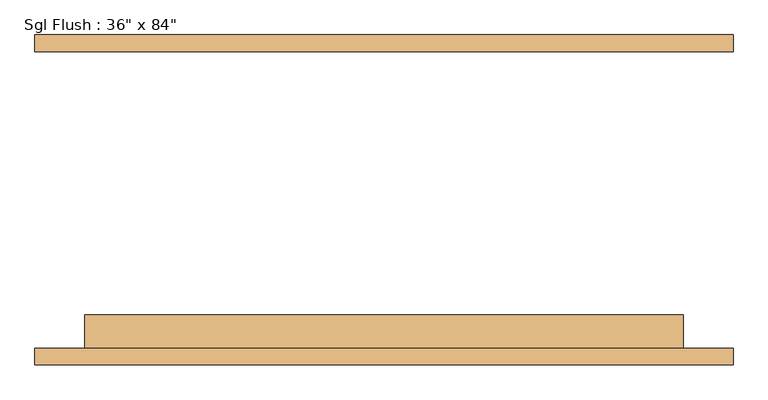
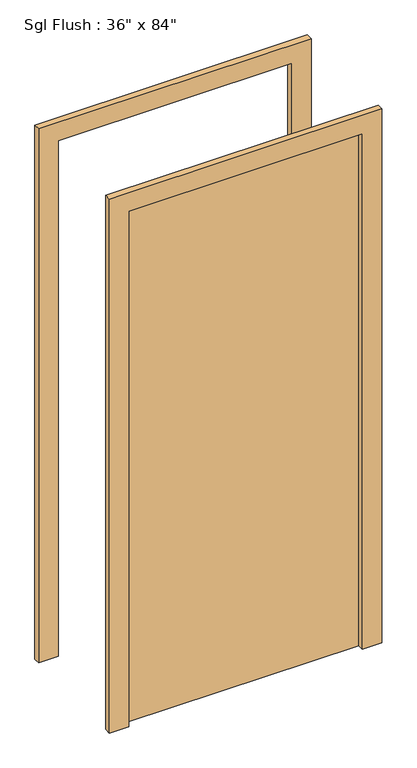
"""IFC4 building model written with IfcOpenShell, lengths in millimetres: door geometry."""

from ifc_helpers import new_model, si_unit, frame, origin, origin_with_axes, place, context, project, spatial, polyline, outline, extrude, source, transform, mapped, element, save


def door_c8b20f4e(model_context):
    return source(origin(), model_context, "Body", "SweptSolid", [
        extrude(outline(polyline([(2209.8, -533.4), (0.0, -533.4), (0.0, -457.2), (2133.6, -457.2), (2133.6, 457.2), (0.0, 457.2), (0.0, 533.4), (2209.8, 533.4), (2209.8, -533.4)])), frame((0.0, -252.4125, 0.0), z_axis=(0.0, 1.0, 0.0), x_axis=(0.0, 0.0, 1.0)), (0.0, 0.0, 1.0), 25.4),
        extrude(outline(polyline([(2209.8, 533.4), (2209.8, -533.4), (0.0, -533.4), (0.0, -457.2), (2133.6, -457.2), (2133.6, 457.2), (0.0, 457.2), (0.0, 533.4), (2209.8, 533.4)])), frame((0.0, 227.0125, 0.0), z_axis=(0.0, 1.0, 0.0), x_axis=(0.0, 0.0, 1.0)), (0.0, 0.0, 1.0), 25.4),
        extrude(outline(polyline([(457.2, -176.2125), (457.2, -227.0125), (-457.2, -227.0125), (-457.2, -176.2125), (457.2, -176.2125)])), origin_with_axes(), (0.0, 0.0, 1.0), 2133.6),
    ])


if __name__ == "__main__":
    model = new_model("IFC4")
    model_context = context("Model", 3, world=origin())
    ifc_project = project(units=[si_unit("LENGTHUNIT", "METRE", prefix="MILLI")], contexts=[model_context])
    site = spatial("IfcSite", under=ifc_project)
    building = spatial("IfcBuilding", under=site)
    placement = place(None, origin())
    door_shape = door_c8b20f4e(model_context)
    element("IfcDoor", 1, ObjectType="Sgl Flush : 36\" x 84\"", at=placement, inside=building, context=model_context, shape_type="MappedRepresentation", body=[
        mapped(door_shape, transform((0.0, 0.0, 0.0), x_axis=(1.0, 0.0, 0.0), y_axis=(0.0, 1.0, 0.0), z_axis=(0.0, 0.0, 1.0))),
    ])
    save(model, "model.ifc")
